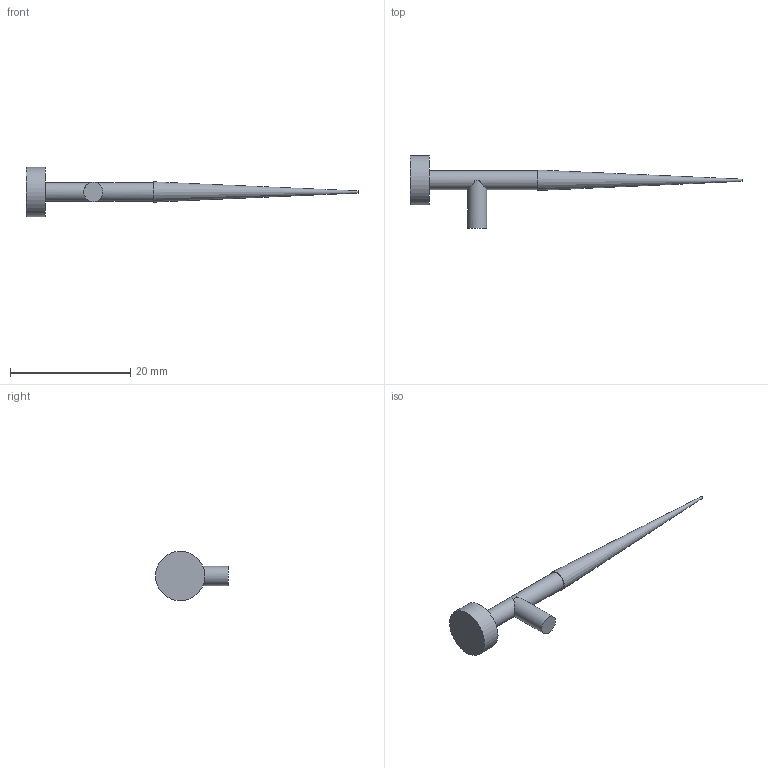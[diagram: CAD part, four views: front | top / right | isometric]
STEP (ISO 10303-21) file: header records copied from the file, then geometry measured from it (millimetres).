
FILE_DESCRIPTION(('Open CASCADE Model'),'2;1');
FILE_NAME('Open CASCADE Shape Model','2026-08-15T08:52:40',('Author'),( 'Open CASCADE'),'Open CASCADE STEP processor 7.9','Open CASCADE 7.9' ,'Unknown');
FILE_SCHEMA(('AUTOMOTIVE_DESIGN { 1 0 10303 214 1 1 1 1 }'));
Length unit declared in the file: millimetre
Products named in the file (1): Open CASCADE STEP translator 7.9 6
Bounding box: 55.2 x 12.1 x 8.2 mm (x, y, z)
Volume: 473.7 mm3; surface area: 627.1 mm2
Topology: 1 solids, 1 shells, 11 faces, 18 edges, 12 vertices
Faces by surface type: plane 7, cylinder 3, cone 1
Full cylindrical faces by diameter (mm): 3.1 x1, 3.2 x1, 8.2 x1
Entity records: 993 total; most frequent: CARTESIAN_POINT 598, DIRECTION 71, ORIENTED_EDGE 36, PCURVE 36, DEFINITIONAL_REPRESENTATION 36, AXIS2_PLACEMENT_3D 21, LINE 20, VECTOR 20
